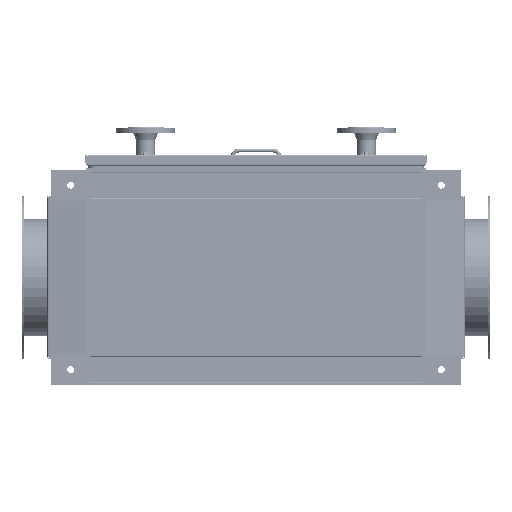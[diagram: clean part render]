
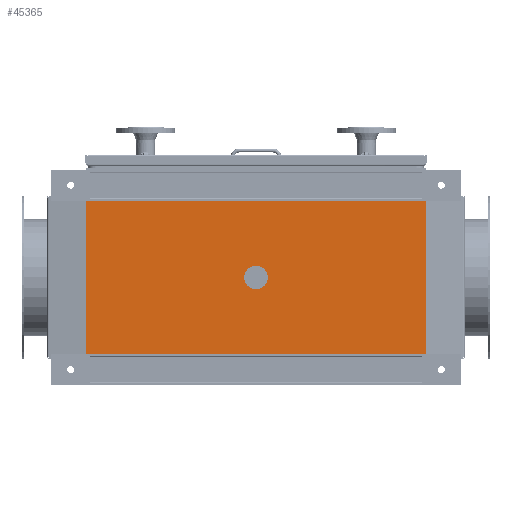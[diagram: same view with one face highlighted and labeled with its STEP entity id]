
A CAD part, front view. The second image highlights one B-rep face of the part: STEP entity #45365.
In plain terms, the highlighted planar face has unit normal (0, -1, 0).
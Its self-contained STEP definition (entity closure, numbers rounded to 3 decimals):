
#827 = VECTOR ( 'NONE', #55820, 1000. ) ;
#1925 = CIRCLE ( 'NONE', #27986, 30.15 ) ;
#1967 = VERTEX_POINT ( 'NONE', #6434 ) ;
#2014 = VECTOR ( 'NONE', #25561, 1000. ) ;
#2042 = EDGE_CURVE ( 'NONE', #25551, #46954, #21746, .T. ) ;
#2509 = CARTESIAN_POINT ( 'NONE',  ( 435., -3., 196.5 ) ) ;
#4488 = CARTESIAN_POINT ( 'NONE',  ( -435., -3., 196.5 ) ) ;
#6434 = CARTESIAN_POINT ( 'NONE',  ( 0., -3., 30.15 ) ) ;
#6595 = ORIENTED_EDGE ( 'NONE', *, *, #26075, .T. ) ;
#7632 = LINE ( 'NONE', #26409, #50481 ) ;
#9576 = LINE ( 'NONE', #19308, #827 ) ;
#10052 = AXIS2_PLACEMENT_3D ( 'NONE', #11562, #16450, #25813 ) ;
#11562 = CARTESIAN_POINT ( 'NONE',  ( 0., -3., 0. ) ) ;
#12706 = CIRCLE ( 'NONE', #10052, 30.15 ) ;
#13288 = DIRECTION ( 'NONE',  ( 0., 1., 0. ) ) ;
#14995 = EDGE_CURVE ( 'NONE', #1967, #47969, #1925, .T. ) ;
#16450 = DIRECTION ( 'NONE',  ( 0., 1., 0. ) ) ;
#17175 = ORIENTED_EDGE ( 'NONE', *, *, #2042, .F. ) ;
#19308 = CARTESIAN_POINT ( 'NONE',  ( -435., -3., 196.5 ) ) ;
#21746 = LINE ( 'NONE', #2509, #2014 ) ;
#23375 = AXIS2_PLACEMENT_3D ( 'NONE', #54578, #46070, #40831 ) ;
#25551 = VERTEX_POINT ( 'NONE', #45536 ) ;
#25561 = DIRECTION ( 'NONE',  ( 0., 0., -1. ) ) ;
#25656 = CARTESIAN_POINT ( 'NONE',  ( 435., -3., -196.5 ) ) ;
#25813 = DIRECTION ( 'NONE',  ( 0., 0., 1. ) ) ;
#26075 = EDGE_CURVE ( 'NONE', #47969, #1967, #12706, .T. ) ;
#26409 = CARTESIAN_POINT ( 'NONE',  ( -435., -3., 196.5 ) ) ;
#26738 = EDGE_LOOP ( 'NONE', ( #17175, #35523, #50186, #44545 ) ) ;
#27808 = EDGE_CURVE ( 'NONE', #46434, #25551, #9576, .T. ) ;
#27986 = AXIS2_PLACEMENT_3D ( 'NONE', #41150, #13288, #50405 ) ;
#29499 = FACE_OUTER_BOUND ( 'NONE', #26738, .T. ) ;
#31587 = EDGE_CURVE ( 'NONE', #46954, #57584, #32590, .T. ) ;
#32203 = DIRECTION ( 'NONE',  ( -1., 0., 0. ) ) ;
#32240 = CARTESIAN_POINT ( 'NONE',  ( -435., -3., -196.5 ) ) ;
#32590 = LINE ( 'NONE', #36640, #52059 ) ;
#35523 = ORIENTED_EDGE ( 'NONE', *, *, #27808, .F. ) ;
#35561 = ORIENTED_EDGE ( 'NONE', *, *, #14995, .T. ) ;
#35779 = PLANE ( 'NONE',  #23375 ) ;
#36640 = CARTESIAN_POINT ( 'NONE',  ( -435., -3., -196.5 ) ) ;
#40831 = DIRECTION ( 'NONE',  ( 0., 0., -1. ) ) ;
#41150 = CARTESIAN_POINT ( 'NONE',  ( 0., -3., 0. ) ) ;
#41852 = FACE_BOUND ( 'NONE', #45502, .T. ) ;
#43615 = CARTESIAN_POINT ( 'NONE',  ( 0., -3., -30.15 ) ) ;
#44545 = ORIENTED_EDGE ( 'NONE', *, *, #31587, .F. ) ;
#45099 = DIRECTION ( 'NONE',  ( 0., 0., 1. ) ) ;
#45361 = EDGE_CURVE ( 'NONE', #57584, #46434, #7632, .T. ) ;
#45365 = ADVANCED_FACE ( 'NONE', ( #41852, #29499 ), #35779, .T. ) ;
#45502 = EDGE_LOOP ( 'NONE', ( #35561, #6595 ) ) ;
#45536 = CARTESIAN_POINT ( 'NONE',  ( 435., -3., 196.5 ) ) ;
#46070 = DIRECTION ( 'NONE',  ( 0., -1., 0. ) ) ;
#46434 = VERTEX_POINT ( 'NONE', #4488 ) ;
#46954 = VERTEX_POINT ( 'NONE', #25656 ) ;
#47969 = VERTEX_POINT ( 'NONE', #43615 ) ;
#50186 = ORIENTED_EDGE ( 'NONE', *, *, #45361, .F. ) ;
#50405 = DIRECTION ( 'NONE',  ( 0., 0., 1. ) ) ;
#50481 = VECTOR ( 'NONE', #45099, 1000. ) ;
#52059 = VECTOR ( 'NONE', #32203, 1000. ) ;
#54578 = CARTESIAN_POINT ( 'NONE',  ( 0., -3., 0. ) ) ;
#55820 = DIRECTION ( 'NONE',  ( 1., 0., 0. ) ) ;
#57584 = VERTEX_POINT ( 'NONE', #32240 ) ;
